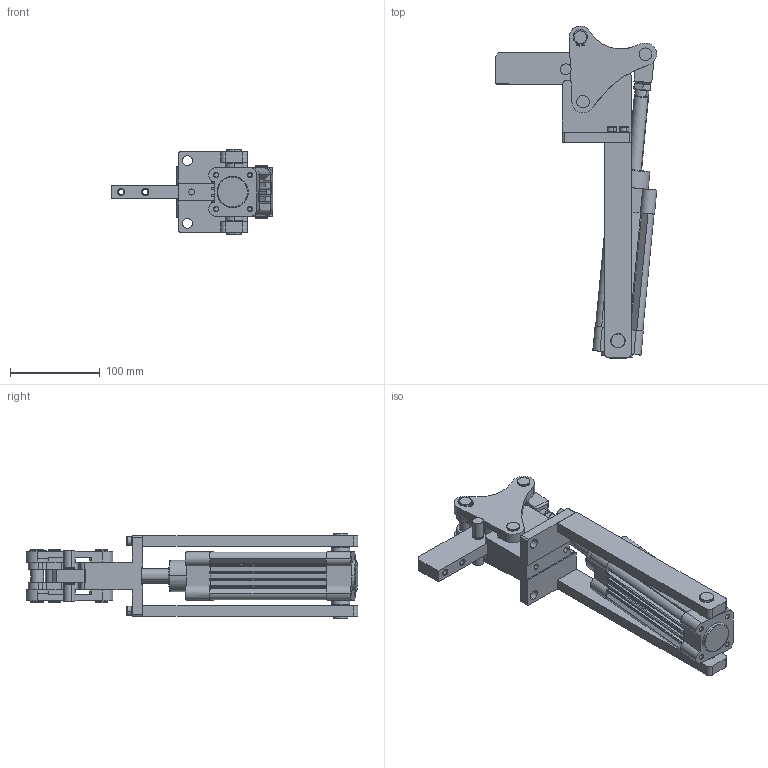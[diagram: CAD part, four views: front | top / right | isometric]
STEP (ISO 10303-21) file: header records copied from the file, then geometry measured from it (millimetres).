
FILE_DESCRIPTION (( 'STEP AP203' ), '1' );
FILE_NAME ('2534.STEP', '2022-12-13T13:02:36', ( '' ), ( '' ), 'SwSTEP 2.0', 'SolidWorks 2023', '' );
FILE_SCHEMA (( 'CONFIG_CONTROL_DESIGN' ));
Length unit declared in the file: millimetre
Products named in the file (15): PISTON MILI_Varsayılan; 2534 B.KOLU_Varsayılan; 2534 KAPAK_Varsayılan; Aynalama2537 H.KOLU_Varsayılan; 2534 MAFSAL_Varsayılan; Ø14 KISA MİL_Varsayılan; Ø14 UZUN MİL_Varsayılan; 2534; 2534 H.KOLU_Varsayılan; Ø14 Segman_Varsayılan; Ø12 Segmanlı Mil 471 Ø12 segman_REV01_Varsayılan; 2534 GÖVDE_Varsayılan; 2534 MAFSAL2_Varsayılan; 150-299-PISTON_Varsayılan; M6x30 Imbus Civata
Assembly tree (22 placements, depth 2):
  2534
    2534 GÖVDE_Varsayılan
    2534 B.KOLU_Varsayılan
    2534 H.KOLU_Varsayılan
    2534 MAFSAL_Varsayılan  x2
    Aynalama2537 H.KOLU_Varsayılan
    2534 KAPAK_Varsayılan  x2
    150-299-PISTON_Varsayılan
    PISTON MILI_Varsayılan
    2534 MAFSAL2_Varsayılan
    Ø14 KISA MİL_Varsayılan  x2
    Ø14 UZUN MİL_Varsayılan  x3
    M6x30 Imbus Civata  x4
    Ø14 Segman_Varsayılan
    Ø12 Segmanlı Mil 471 Ø12 segman_REV01_Varsayılan
Bounding box: 180.26 x 370.42 x 95 mm (x, y, z)
Volume: 944257.1 mm3; surface area: 268498.7 mm2
Topology: 22 solids, 27 shells, 1019 faces, 2551 edges, 1629 vertices
Faces by surface type: cylinder 559, plane 321, cone 88, bspline 26, torus 25
Entity records: 27567 total; most frequent: CARTESIAN_POINT 10052, DIRECTION 3401, ORIENTED_EDGE 3240, EDGE_CURVE 1620, AXIS2_PLACEMENT_3D 1305, VERTEX_POINT 1046, VECTOR 791, LINE 791
